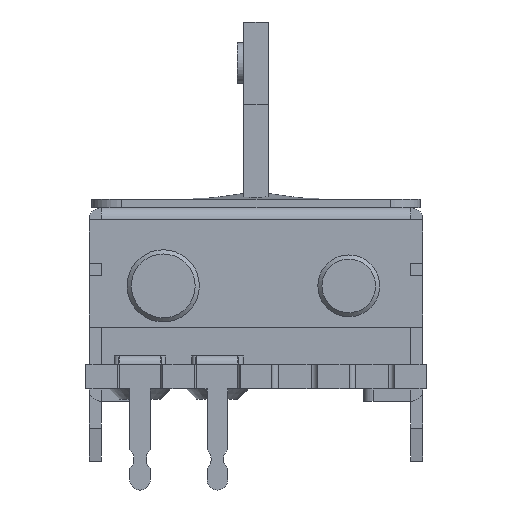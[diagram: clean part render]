
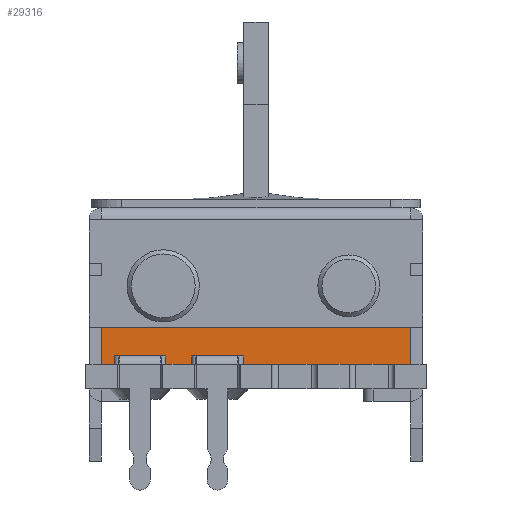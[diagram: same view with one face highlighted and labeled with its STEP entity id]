
A CAD part, left-side view. The second image highlights one B-rep face of the part: STEP entity #29316.
In plain terms, the highlighted planar face has unit normal (-1, 0, 0).
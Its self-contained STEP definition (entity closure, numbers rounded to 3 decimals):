
#10059 = PLANE('',#10060);
#10060 = AXIS2_PLACEMENT_3D('',#10061,#10062,#10063);
#10061 = CARTESIAN_POINT('',(-39.3,-9.5,-8.));
#10062 = DIRECTION('',(1.,0.,0.));
#10063 = DIRECTION('',(0.,0.,1.));
#10085 = PLANE('',#10086);
#10086 = AXIS2_PLACEMENT_3D('',#10087,#10088,#10089);
#10087 = CARTESIAN_POINT('',(-44.,-8.25,-8.));
#10088 = DIRECTION('',(0.,0.,1.));
#10089 = DIRECTION('',(1.,0.,0.));
#11680 = PLANE('',#11681);
#11681 = AXIS2_PLACEMENT_3D('',#11682,#11683,#11684);
#11682 = CARTESIAN_POINT('',(-39.3,7.5,-8.));
#11683 = DIRECTION('',(1.,0.,0.));
#11684 = DIRECTION('',(0.,0.,1.));
#23017 = VERTEX_POINT('',#23018);
#23018 = CARTESIAN_POINT('',(-39.3,-7.5,-8.));
#23039 = EDGE_CURVE('',#23017,#23040,#23042,.T.);
#23040 = VERTEX_POINT('',#23041);
#23041 = CARTESIAN_POINT('',(-39.3,7.5,-8.));
#23042 = SURFACE_CURVE('',#23043,(#23047,#23054),.PCURVE_S1.);
#23043 = LINE('',#23044,#23045);
#23044 = CARTESIAN_POINT('',(-39.3,-8.35,-8.));
#23045 = VECTOR('',#23046,1.);
#23046 = DIRECTION('',(0.,1.,0.));
#23047 = PCURVE('',#10085,#23048);
#23048 = DEFINITIONAL_REPRESENTATION('',(#23049),#23053);
#23049 = LINE('',#23050,#23051);
#23050 = CARTESIAN_POINT('',(4.7,-0.1));
#23051 = VECTOR('',#23052,1.);
#23052 = DIRECTION('',(0.,1.));
#23053 = ( GEOMETRIC_REPRESENTATION_CONTEXT(2) 
PARAMETRIC_REPRESENTATION_CONTEXT() REPRESENTATION_CONTEXT('2D SPACE',''
  ) );
#23054 = PCURVE('',#23055,#23060);
#23055 = PLANE('',#23056);
#23056 = AXIS2_PLACEMENT_3D('',#23057,#23058,#23059);
#23057 = CARTESIAN_POINT('',(-39.3,-9.2,-17.2));
#23058 = DIRECTION('',(1.,0.,0.));
#23059 = DIRECTION('',(0.,0.,1.));
#23060 = DEFINITIONAL_REPRESENTATION('',(#23061),#23064);
#23061 = B_SPLINE_CURVE_WITH_KNOTS('',1,(#23062,#23063),.UNSPECIFIED.,
  .F.,.F.,(2,2),(0.85,15.85),.PIECEWISE_BEZIER_KNOTS.);
#23062 = CARTESIAN_POINT('',(9.2,-1.7));
#23063 = CARTESIAN_POINT('',(9.2,-16.7));
#23064 = ( GEOMETRIC_REPRESENTATION_CONTEXT(2) 
PARAMETRIC_REPRESENTATION_CONTEXT() REPRESENTATION_CONTEXT('2D SPACE',''
  ) );
#23745 = EDGE_CURVE('',#23017,#23746,#23748,.T.);
#23746 = VERTEX_POINT('',#23747);
#23747 = CARTESIAN_POINT('',(-39.3,-7.5,-6.2));
#23748 = SURFACE_CURVE('',#23749,(#23753,#23760),.PCURVE_S1.);
#23749 = LINE('',#23750,#23751);
#23750 = CARTESIAN_POINT('',(-39.3,-7.5,-8.));
#23751 = VECTOR('',#23752,1.);
#23752 = DIRECTION('',(0.,0.,1.));
#23753 = PCURVE('',#10059,#23754);
#23754 = DEFINITIONAL_REPRESENTATION('',(#23755),#23759);
#23755 = LINE('',#23756,#23757);
#23756 = CARTESIAN_POINT('',(0.,-2.));
#23757 = VECTOR('',#23758,1.);
#23758 = DIRECTION('',(1.,0.));
#23759 = ( GEOMETRIC_REPRESENTATION_CONTEXT(2) 
PARAMETRIC_REPRESENTATION_CONTEXT() REPRESENTATION_CONTEXT('2D SPACE',''
  ) );
#23760 = PCURVE('',#23055,#23761);
#23761 = DEFINITIONAL_REPRESENTATION('',(#23762),#23766);
#23762 = LINE('',#23763,#23764);
#23763 = CARTESIAN_POINT('',(9.2,-1.7));
#23764 = VECTOR('',#23765,1.);
#23765 = DIRECTION('',(1.,0.));
#23766 = ( GEOMETRIC_REPRESENTATION_CONTEXT(2) 
PARAMETRIC_REPRESENTATION_CONTEXT() REPRESENTATION_CONTEXT('2D SPACE',''
  ) );
#23810 = PLANE('',#23811);
#23811 = AXIS2_PLACEMENT_3D('',#23812,#23813,#23814);
#23812 = CARTESIAN_POINT('',(-39.3,-9.2,-6.2));
#23813 = DIRECTION('',(0.,0.,1.));
#23814 = DIRECTION('',(-1.,0.,0.));
#26868 = VERTEX_POINT('',#26869);
#26869 = CARTESIAN_POINT('',(-39.3,7.5,-6.2));
#26916 = EDGE_CURVE('',#23040,#26868,#26917,.T.);
#26917 = SURFACE_CURVE('',#26918,(#26922,#26929),.PCURVE_S1.);
#26918 = LINE('',#26919,#26920);
#26919 = CARTESIAN_POINT('',(-39.3,7.5,-8.));
#26920 = VECTOR('',#26921,1.);
#26921 = DIRECTION('',(0.,0.,1.));
#26922 = PCURVE('',#11680,#26923);
#26923 = DEFINITIONAL_REPRESENTATION('',(#26924),#26928);
#26924 = LINE('',#26925,#26926);
#26925 = CARTESIAN_POINT('',(0.,0.));
#26926 = VECTOR('',#26927,1.);
#26927 = DIRECTION('',(1.,0.));
#26928 = ( GEOMETRIC_REPRESENTATION_CONTEXT(2) 
PARAMETRIC_REPRESENTATION_CONTEXT() REPRESENTATION_CONTEXT('2D SPACE',''
  ) );
#26929 = PCURVE('',#23055,#26930);
#26930 = DEFINITIONAL_REPRESENTATION('',(#26931),#26935);
#26931 = LINE('',#26932,#26933);
#26932 = CARTESIAN_POINT('',(9.2,-16.7));
#26933 = VECTOR('',#26934,1.);
#26934 = DIRECTION('',(1.,0.));
#26935 = ( GEOMETRIC_REPRESENTATION_CONTEXT(2) 
PARAMETRIC_REPRESENTATION_CONTEXT() REPRESENTATION_CONTEXT('2D SPACE',''
  ) );
#29316 = ADVANCED_FACE('',(#29317),#23055,.F.);
#29317 = FACE_BOUND('',#29318,.F.);
#29318 = EDGE_LOOP('',(#29319,#29340,#29341,#29342));
#29319 = ORIENTED_EDGE('',*,*,#29320,.F.);
#29320 = EDGE_CURVE('',#23746,#26868,#29321,.T.);
#29321 = SURFACE_CURVE('',#29322,(#29326,#29333),.PCURVE_S1.);
#29322 = LINE('',#29323,#29324);
#29323 = CARTESIAN_POINT('',(-39.3,-9.2,-6.2));
#29324 = VECTOR('',#29325,1.);
#29325 = DIRECTION('',(0.,1.,0.));
#29326 = PCURVE('',#23055,#29327);
#29327 = DEFINITIONAL_REPRESENTATION('',(#29328),#29332);
#29328 = LINE('',#29329,#29330);
#29329 = CARTESIAN_POINT('',(11.,0.));
#29330 = VECTOR('',#29331,1.);
#29331 = DIRECTION('',(0.,-1.));
#29332 = ( GEOMETRIC_REPRESENTATION_CONTEXT(2) 
PARAMETRIC_REPRESENTATION_CONTEXT() REPRESENTATION_CONTEXT('2D SPACE',''
  ) );
#29333 = PCURVE('',#23810,#29334);
#29334 = DEFINITIONAL_REPRESENTATION('',(#29335),#29339);
#29335 = LINE('',#29336,#29337);
#29336 = CARTESIAN_POINT('',(0.,0.));
#29337 = VECTOR('',#29338,1.);
#29338 = DIRECTION('',(0.,-1.));
#29339 = ( GEOMETRIC_REPRESENTATION_CONTEXT(2) 
PARAMETRIC_REPRESENTATION_CONTEXT() REPRESENTATION_CONTEXT('2D SPACE',''
  ) );
#29340 = ORIENTED_EDGE('',*,*,#23745,.F.);
#29341 = ORIENTED_EDGE('',*,*,#23039,.T.);
#29342 = ORIENTED_EDGE('',*,*,#26916,.T.);
